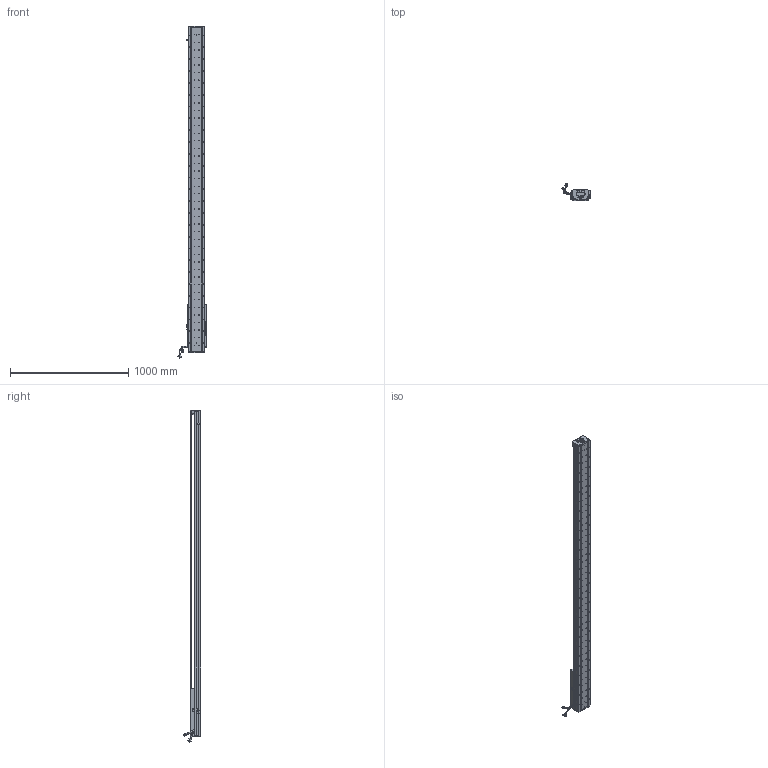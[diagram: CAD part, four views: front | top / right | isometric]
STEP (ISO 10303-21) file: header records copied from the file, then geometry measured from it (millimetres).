
FILE_DESCRIPTION (( 'STEP AP203' ), '1' );
FILE_NAME ('Z5-RY140D-1-L500-B-K.SLDASM_2300.step', '2021-05-17T08:39:35', ( '盈信电脑' ), ( '东莞市道滘镇水果街19号' ), 'SwSTEP 2.0', 'SolidWorks 2016', '' );
FILE_SCHEMA (( 'CONFIG_CONTROL_DESIGN' ));
Length unit declared in the file: millimetre
Products named in the file (36): HARNESS; 詩湍奻揤裔; SCREW-M1.6; SHIELDPLATE; HARNESS-Part-2; 140-Z-臏賑輸盄裔(21遴); LABEL; 140雄赽晤鎢ん堤盄; 080黍杅芛假蚾釱21遴; Z5-RY140-L500直线电机模组底座_2300; PBU_SHEET; SCALE-Part-1; SEAL; Z-140詩湍傷裔啣; SCREW-M1.6-3; Z-RY140感应器672光电感应片; Z5-RY140D-1-L500-B-K.SLDASM_2300; PSLH080_PSLF2; Z5-RY140-L500詩湍100mm遵_2300; 詩湍狟揤裔; COVER; SCREW-M1.7; SCREW-M1.7-1; HARNESS-Part-1; SCALE; LABEL-Part-1; SCREW-M1.6-2; 榋妏寠巭燃_暯_M2_2; COVER-Part-1; SEAL-Part-1; 覜茼ん672; SCREW-M1.6-1; HOLDER0; Z5-RY140圉猾敕臏賑輸(21遴); SCALE-Part-2; 140蚥薯蝶輸
Assembly tree (41 placements, depth 4):
  Z5-RY140D-1-L500-B-K.SLDASM_2300
    Z5-RY140-L500直线电机模组底座_2300
    Z-RY140感应器672光电感应片
    Z5-RY140圉猾敕臏賑輸(21遴)
    覜茼ん672  x3
    Z5-RY140-L500詩湍100mm遵_2300
    PSLH080_PSLF2
      SCALE
        SCALE-Part-1
        SCALE-Part-2
      HARNESS
        HARNESS-Part-1
        HARNESS-Part-2
      LABEL
        LABEL-Part-1
      COVER
        COVER-Part-1
      SEAL
        SEAL-Part-1
      榋妏寠巭燃_暯_M2_2
      SHIELDPLATE
      SCREW-M1.7
      SCREW-M1.7-1
      PBU_SHEET
      SCREW-M1.6
      SCREW-M1.6-1
      SCREW-M1.6-2
      SCREW-M1.6-3
      HOLDER0
    080黍杅芛假蚾釱21遴
    140-Z-臏賑輸盄裔(21遴)
    Z-140詩湍傷裔啣  x2
    詩湍狟揤裔  x2
    詩湍奻揤裔  x2
    140蚥薯蝶輸  x2
    140雄赽晤鎢ん堤盄
Bounding box: 239.79 x 143.88 x 2805.87 mm (x, y, z)
Volume: 9332842.6 mm3; surface area: 2392277.7 mm2
Topology: 36 solids, 36 shells, 4266 faces, 11614 edges, 7359 vertices
Faces by surface type: cylinder 2336, plane 1394, cone 414, torus 69, bspline 53
Entity records: 135846 total; most frequent: CARTESIAN_POINT 38323, ORIENTED_EDGE 20124, DIRECTION 18670, EDGE_CURVE 10062, AXIS2_PLACEMENT_3D 6970, VERTEX_POINT 6527, LINE 4730, VECTOR 4730
